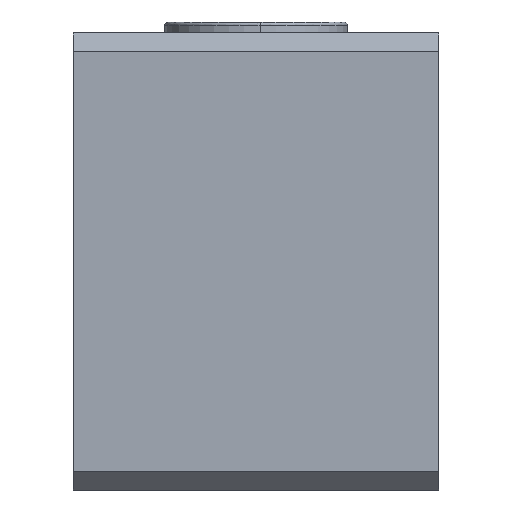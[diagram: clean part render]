
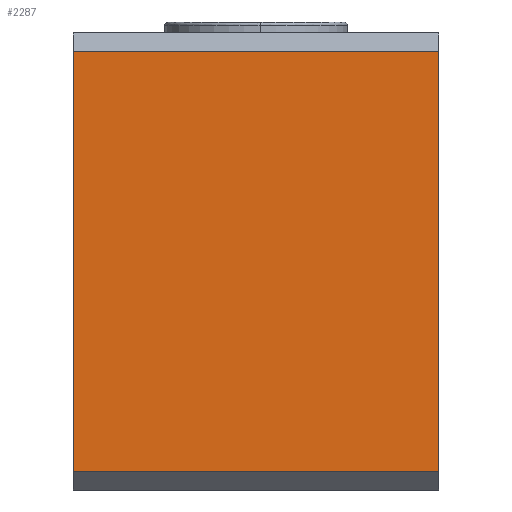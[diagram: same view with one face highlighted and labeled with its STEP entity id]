
A CAD part, front view. The second image highlights one B-rep face of the part: STEP entity #2287.
In plain terms, the highlighted planar face has unit normal (0, -1, 0).
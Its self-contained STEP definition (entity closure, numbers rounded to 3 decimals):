
#294 = PLANE ( 'NONE',  #1525 ) ;
#546 = EDGE_CURVE ( 'NONE', #5677, #7457, #9376, .T. ) ;
#664 = VECTOR ( 'NONE', #1962, 1000. ) ;
#691 = CARTESIAN_POINT ( 'NONE',  ( -15.326, -4.571, -11.5 ) ) ;
#1525 = AXIS2_PLACEMENT_3D ( 'NONE', #2010, #7749, #2823 ) ;
#1708 = CARTESIAN_POINT ( 'NONE',  ( -35.326, -4.571, 0. ) ) ;
#1962 = DIRECTION ( 'NONE',  ( 0., 0., 1. ) ) ;
#2010 = CARTESIAN_POINT ( 'NONE',  ( -35.326, -4.571, -11.5 ) ) ;
#2287 = ADVANCED_FACE ( 'NONE', ( #7674 ), #294, .F. ) ;
#2622 = VERTEX_POINT ( 'NONE', #8554 ) ;
#2629 = EDGE_CURVE ( 'NONE', #5677, #2622, #9047, .T. ) ;
#2772 = CARTESIAN_POINT ( 'NONE',  ( -15.326, -4.571, 0. ) ) ;
#2823 = DIRECTION ( 'NONE',  ( 0., 0., 1. ) ) ;
#2862 = VECTOR ( 'NONE', #9315, 1000. ) ;
#3483 = EDGE_LOOP ( 'NONE', ( #8018, #6104, #4199, #8542 ) ) ;
#4199 = ORIENTED_EDGE ( 'NONE', *, *, #2629, .F. ) ;
#5066 = LINE ( 'NONE', #6030, #2862 ) ;
#5299 = DIRECTION ( 'NONE',  ( 1., 0., 0. ) ) ;
#5368 = EDGE_CURVE ( 'NONE', #10514, #2622, #7256, .T. ) ;
#5575 = EDGE_CURVE ( 'NONE', #10514, #7457, #5066, .T. ) ;
#5613 = CARTESIAN_POINT ( 'NONE',  ( -35.326, -4.571, -11.5 ) ) ;
#5677 = VERTEX_POINT ( 'NONE', #7016 ) ;
#6030 = CARTESIAN_POINT ( 'NONE',  ( -25.326, -4.571, -11.5 ) ) ;
#6104 = ORIENTED_EDGE ( 'NONE', *, *, #5368, .T. ) ;
#6876 = VECTOR ( 'NONE', #5299, 1000. ) ;
#7016 = CARTESIAN_POINT ( 'NONE',  ( -35.326, -4.571, 11.5 ) ) ;
#7200 = VECTOR ( 'NONE', #8897, 1000. ) ;
#7256 = LINE ( 'NONE', #2772, #664 ) ;
#7457 = VERTEX_POINT ( 'NONE', #5613 ) ;
#7674 = FACE_OUTER_BOUND ( 'NONE', #3483, .T. ) ;
#7726 = CARTESIAN_POINT ( 'NONE',  ( -25.326, -4.571, 11.5 ) ) ;
#7749 = DIRECTION ( 'NONE',  ( 0., 1., 0. ) ) ;
#8018 = ORIENTED_EDGE ( 'NONE', *, *, #5575, .F. ) ;
#8542 = ORIENTED_EDGE ( 'NONE', *, *, #546, .T. ) ;
#8554 = CARTESIAN_POINT ( 'NONE',  ( -15.326, -4.571, 11.5 ) ) ;
#8897 = DIRECTION ( 'NONE',  ( 0., 0., -1. ) ) ;
#9047 = LINE ( 'NONE', #7726, #6876 ) ;
#9315 = DIRECTION ( 'NONE',  ( -1., 0., 0. ) ) ;
#9376 = LINE ( 'NONE', #1708, #7200 ) ;
#10514 = VERTEX_POINT ( 'NONE', #691 ) ;
